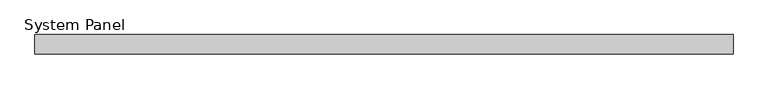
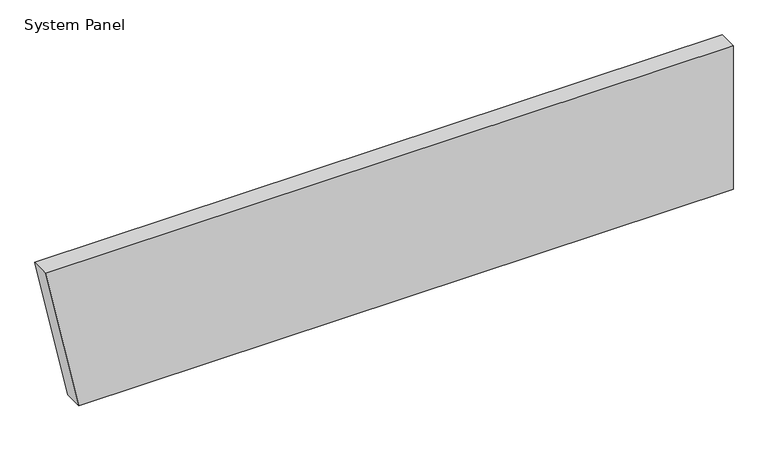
"""IFC4 building model written with IfcOpenShell, lengths in millimetres: plate geometry, System Panel : Equitilt 150mm Horizontal - Plain RHEA - MW."""

from ifc_helpers import new_model, si_unit, frame, origin, place, context, project, spatial, polyline, outline, extrude, source, transform, mapped, element, save


def system_panel_697395f3(model_context):
    return source(origin(), model_context, "Body", "SweptSolid", [
        extrude(outline(polyline([(0.0, -2459.5641691), (0.0, 2720.4358309), (1200.0, 2720.4358309), (1200.0, -2720.4358309), (0.0, -2459.5641691)])), frame((0.0, -150.0, 0.0), z_axis=(0.0, 1.0, 0.0), x_axis=(0.0, 0.0, 1.0)), (0.0, 0.0, 1.0), 150.0),
    ])


if __name__ == "__main__":
    model = new_model("IFC4")
    model_context = context("Model", 3, world=origin())
    ifc_project = project(units=[si_unit("LENGTHUNIT", "METRE", prefix="MILLI")], contexts=[model_context])
    site = spatial("IfcSite", under=ifc_project)
    building = spatial("IfcBuilding", under=site)
    placement = place(None, origin())
    system_panel_shape = system_panel_697395f3(model_context)
    element("IfcPlate", 1, ObjectType="System Panel : Equitilt 150mm Horizontal - Plain RHEA - MW", at=placement, inside=building, context=model_context, shape_type="MappedRepresentation", body=[
        mapped(system_panel_shape, transform((0.0, 0.0, 0.0), x_axis=(1.0, 0.0, 0.0), y_axis=(0.0, 1.0, 0.0), z_axis=(0.0, 0.0, 1.0))),
    ])
    save(model, "model.ifc")
